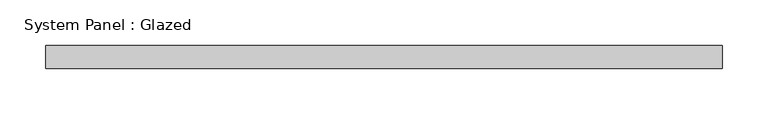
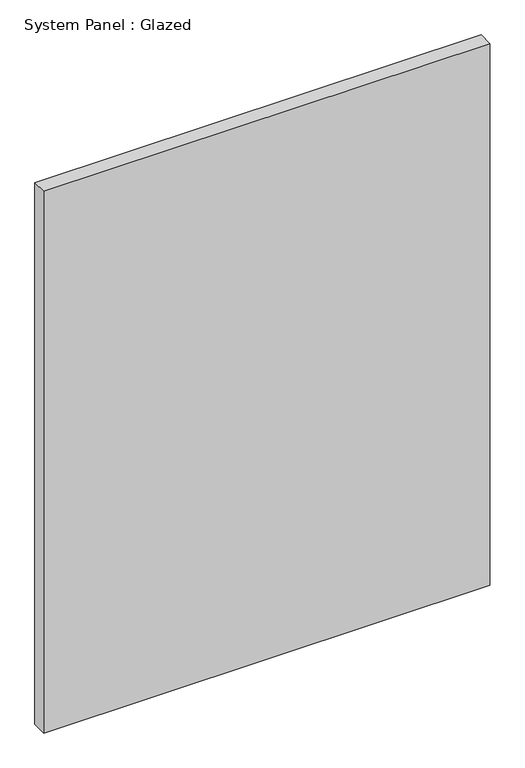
"""IFC4 building model written with IfcOpenShell, lengths in millimetres: plate geometry, System Panel : Glazed."""

from ifc_helpers import new_model, si_unit, origin, origin_with_axes, place, context, project, spatial, polyline, outline, extrude, source, transform, mapped, element, save


def system_panel_glazed_03360dd4(model_context):
    return source(origin(), model_context, "Body", "SweptSolid", [
        extrude(outline(polyline([(370.0, 24.5), (-370.0, 24.5), (-370.0, 49.5), (370.0, 49.5), (370.0, 24.5)])), origin_with_axes(), (0.0, 0.0, 1.0), 950.0),
    ])


if __name__ == "__main__":
    model = new_model("IFC4")
    model_context = context("Model", 3, world=origin())
    ifc_project = project(units=[si_unit("LENGTHUNIT", "METRE", prefix="MILLI")], contexts=[model_context])
    site = spatial("IfcSite", under=ifc_project)
    building = spatial("IfcBuilding", under=site)
    placement = place(None, origin())
    system_panel_glazed_shape = system_panel_glazed_03360dd4(model_context)
    element("IfcPlate", 1, ObjectType="System Panel : Glazed", at=placement, inside=building, context=model_context, shape_type="MappedRepresentation", body=[
        mapped(system_panel_glazed_shape, transform((0.0, 0.0, 0.0), x_axis=(1.0, 0.0, 0.0), y_axis=(0.0, 1.0, 0.0), z_axis=(0.0, 0.0, 1.0))),
    ])
    save(model, "model.ifc")
